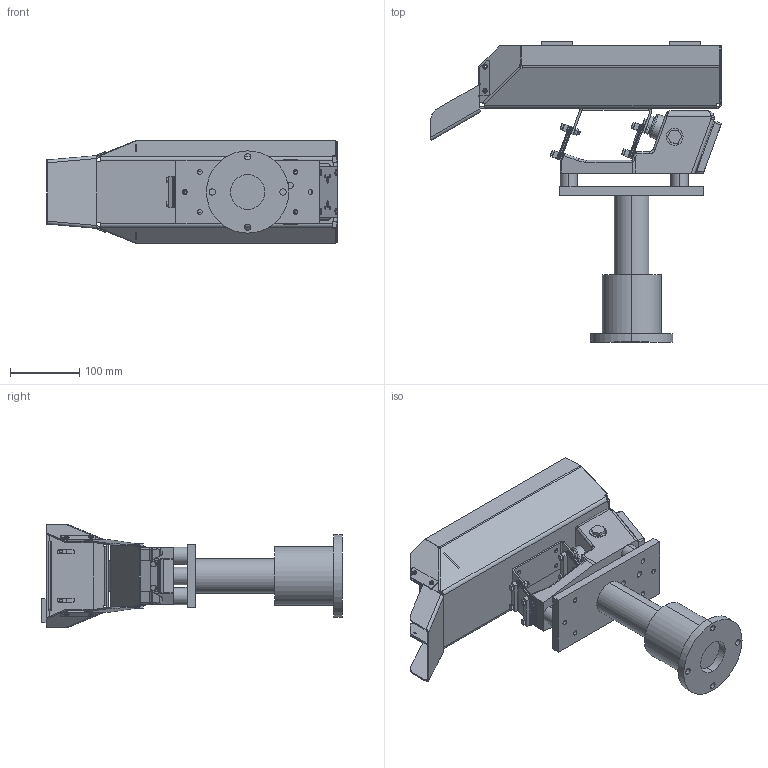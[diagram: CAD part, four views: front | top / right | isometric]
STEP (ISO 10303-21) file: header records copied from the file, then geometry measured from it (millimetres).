
FILE_DESCRIPTION (( 'STEP AP203' ), '1' );
FILE_NAME ('JSC0C 蹋羞-3.STEP', '2025-06-07T03:20:30', ( '' ), ( '' ), 'SwSTEP 2.0', 'SolidWorks 2022', '' );
FILE_SCHEMA (( 'CONFIG_CONTROL_DESIGN' ));
Length unit declared in the file: millimetre
Products named in the file (1): JSC0C  蹋羞-3
Bounding box: 420.17 x 433.83 x 150 mm (x, y, z)
Volume: 2310628.9 mm3; surface area: 772520 mm2
Topology: 73 solids, 73 shells, 1511 faces, 3642 edges, 2301 vertices
Faces by surface type: plane 773, cylinder 522, cone 157, bspline 47, torus 12
Entity records: 46938 total; most frequent: CARTESIAN_POINT 11045, DIRECTION 7472, ORIENTED_EDGE 7222, EDGE_CURVE 3611, AXIS2_PLACEMENT_3D 2732, VERTEX_POINT 2301, LINE 2008, VECTOR 2008
